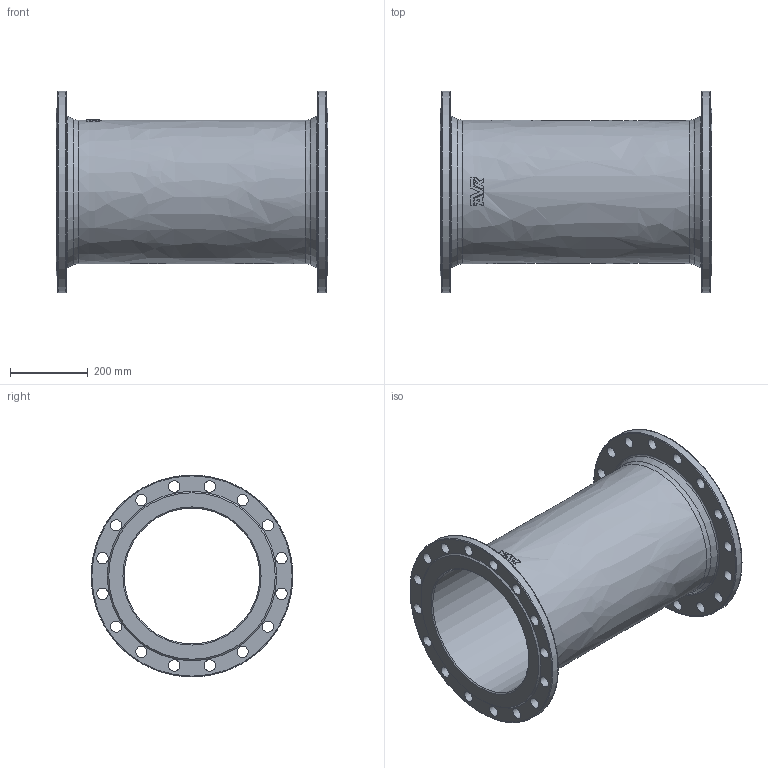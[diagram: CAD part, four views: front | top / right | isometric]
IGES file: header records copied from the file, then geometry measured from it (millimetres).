
Start section: SolidWorks IGES file using analytic representation for surfaces
Global section: file name: \\avksan2\techshare\PBM outline export from Enovia\O_712_5010_DN350_1X_REV01.igs; native system: SolidWorks 2019; preprocessor: SolidWorks 2019; author: pbm; date: 211203.110403; units: millimetre
Bounding box: 700 x 520 x 520 mm (x, y, z)
Surface area: 2033780.9 mm2 (no closed solid volume)
Topology: 0 solids, 0 shells, 97 faces, 486 edges, 435 vertices
Faces by surface type: revolution 54, bspline 43
